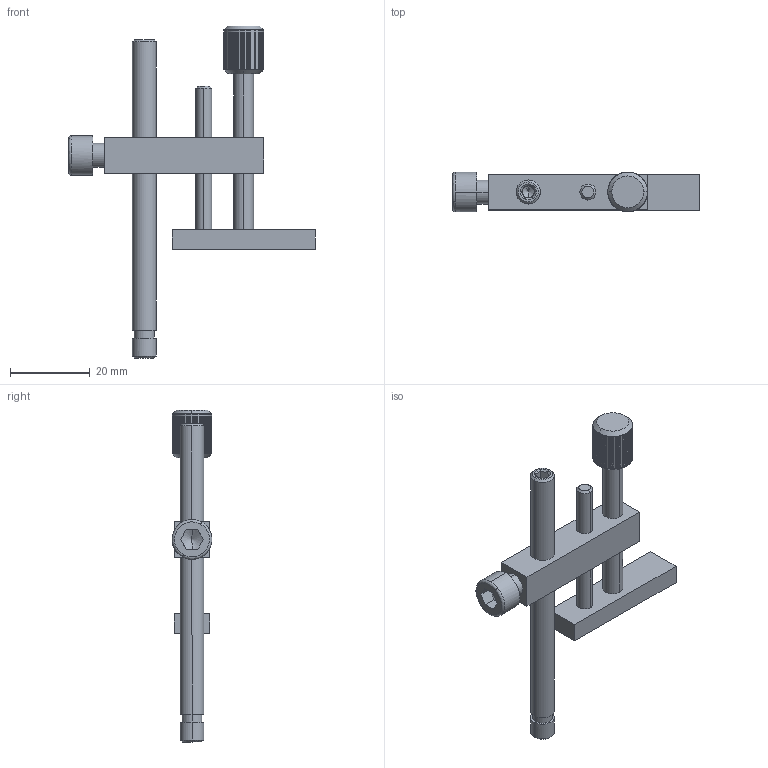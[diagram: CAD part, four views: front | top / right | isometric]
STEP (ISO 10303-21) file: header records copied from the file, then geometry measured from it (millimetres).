
FILE_DESCRIPTION (( 'STEP AP203' ), '1' );
FILE_NAME ('4BC32.STEP', '2010-11-26T07:04:19', ( 'Darius' ), ( '' ), 'SwSTEP 2.0', 'SolidWorks 2003240', '' );
FILE_SCHEMA (( 'CONFIG_CONTROL_DESIGN' ));
Length unit declared in the file: millimetre
Products named in the file (1): 4BC32
Bounding box: 62 x 10 x 83.48 mm (x, y, z)
Volume: 9068.7 mm3; surface area: 5782.3 mm2
Topology: 1 solids, 2 shells, 415 faces, 975 edges, 574 vertices
Faces by surface type: plane 361, cylinder 30, cone 20, bspline 4
Entity records: 11799 total; most frequent: CARTESIAN_POINT 2157, DIRECTION 2066, ORIENTED_EDGE 1938, EDGE_CURVE 969, AXIS2_PLACEMENT_3D 715, VECTOR 636, LINE 636, VERTEX_POINT 574
